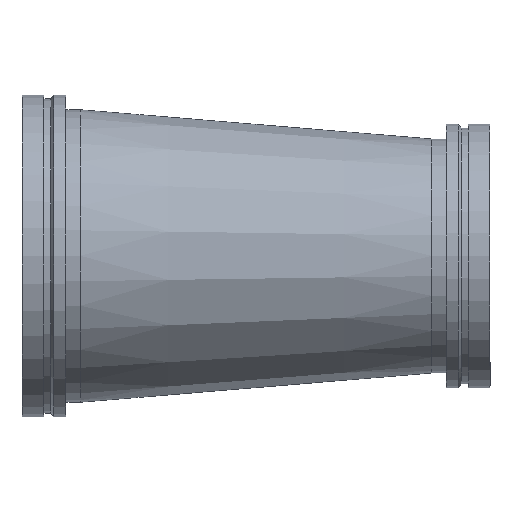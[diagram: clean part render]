
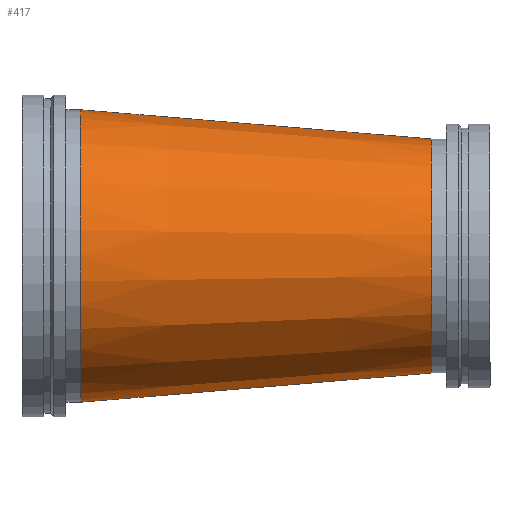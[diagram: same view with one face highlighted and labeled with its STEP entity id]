
A CAD part, top view. The second image highlights one B-rep face of the part: STEP entity #417.
In plain terms, the highlighted conical face has half-angle 4.764 degrees and reference radius 228.6 mm.
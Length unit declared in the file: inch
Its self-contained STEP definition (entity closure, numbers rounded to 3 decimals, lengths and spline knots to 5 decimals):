
#46=CONICAL_SURFACE('',#475,9.,0.083);
#54=LINE('',#739,#68);
#68=VECTOR('',#587,9.);
#101=FACE_OUTER_BOUND('',#124,.T.);
#124=EDGE_LOOP('',(#315,#316,#317,#318,#319,#320));
#155=CIRCLE('',#473,10.);
#156=CIRCLE('',#474,10.);
#157=CIRCLE('',#476,8.);
#158=CIRCLE('',#477,8.);
#195=VERTEX_POINT('',#729);
#196=VERTEX_POINT('',#730);
#197=VERTEX_POINT('',#735);
#198=VERTEX_POINT('',#736);
#239=EDGE_CURVE('',#195,#196,#155,.T.);
#240=EDGE_CURVE('',#196,#195,#156,.T.);
#242=EDGE_CURVE('',#197,#198,#157,.T.);
#243=EDGE_CURVE('',#198,#197,#158,.T.);
#244=EDGE_CURVE('',#198,#196,#54,.T.);
#315=ORIENTED_EDGE('',*,*,#242,.F.);
#316=ORIENTED_EDGE('',*,*,#243,.F.);
#317=ORIENTED_EDGE('',*,*,#244,.T.);
#318=ORIENTED_EDGE('',*,*,#240,.T.);
#319=ORIENTED_EDGE('',*,*,#239,.T.);
#320=ORIENTED_EDGE('',*,*,#244,.F.);
#417=ADVANCED_FACE('',(#101),#46,.T.);
#473=AXIS2_PLACEMENT_3D('',#731,#576,#577);
#474=AXIS2_PLACEMENT_3D('',#732,#578,#579);
#475=AXIS2_PLACEMENT_3D('',#734,#581,#582);
#476=AXIS2_PLACEMENT_3D('',#737,#583,#584);
#477=AXIS2_PLACEMENT_3D('',#738,#585,#586);
#576=DIRECTION('center_axis',(1.,0.,0.));
#577=DIRECTION('ref_axis',(0.,0.,-1.));
#578=DIRECTION('center_axis',(1.,0.,0.));
#579=DIRECTION('ref_axis',(0.,0.,-1.));
#581=DIRECTION('center_axis',(-1.,0.,0.));
#582=DIRECTION('ref_axis',(0.,1.,0.));
#583=DIRECTION('center_axis',(1.,0.,0.));
#584=DIRECTION('ref_axis',(0.,0.,-1.));
#585=DIRECTION('center_axis',(1.,0.,0.));
#586=DIRECTION('ref_axis',(0.,0.,-1.));
#587=DIRECTION('',(-0.997,-0.083,0.));
#729=CARTESIAN_POINT('',(4.,10.,0.));
#730=CARTESIAN_POINT('',(4.,-10.,0.));
#731=CARTESIAN_POINT('Origin',(4.,0.,0.));
#732=CARTESIAN_POINT('Origin',(4.,0.,0.));
#734=CARTESIAN_POINT('Origin',(16.,0.,0.));
#735=CARTESIAN_POINT('',(28.,8.,0.));
#736=CARTESIAN_POINT('',(28.,-8.,0.));
#737=CARTESIAN_POINT('Origin',(28.,0.,0.));
#738=CARTESIAN_POINT('Origin',(28.,0.,0.));
#739=CARTESIAN_POINT('',(16.,-9.,0.));
